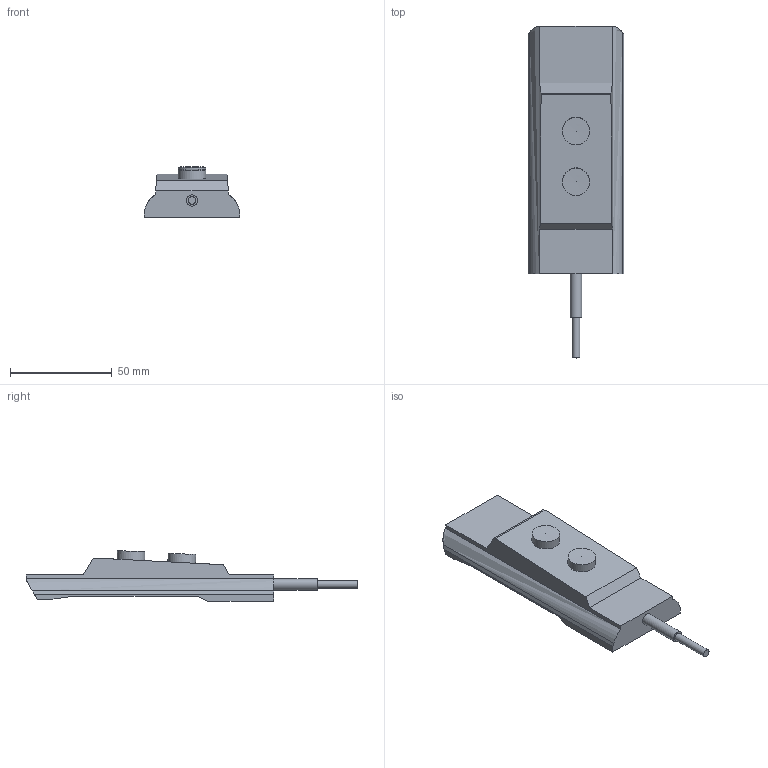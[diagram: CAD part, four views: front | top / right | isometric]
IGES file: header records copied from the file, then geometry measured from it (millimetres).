
Start section: Data from Parasolid IGES Translator 20.0.26, Copyright(c) 2006 Siemens P LM Software. All Rights Reserved.
Global section: file name: 9277920.igs; native system: By Siemens PLM Incorporated; preprocessor: XPlus GENERIC/IGES 20.0.26; author: Noname; organization: Noname; date: 20201028.171129; units: millimetre
Bounding box: 47 x 163.45 x 24.91 mm (x, y, z)
Surface area: 16312.3 mm2 (no closed solid volume)
Topology: 0 solids, 0 shells, 30 faces, 154 edges, 146 vertices
Faces by surface type: extrusion 22, revolution 8
